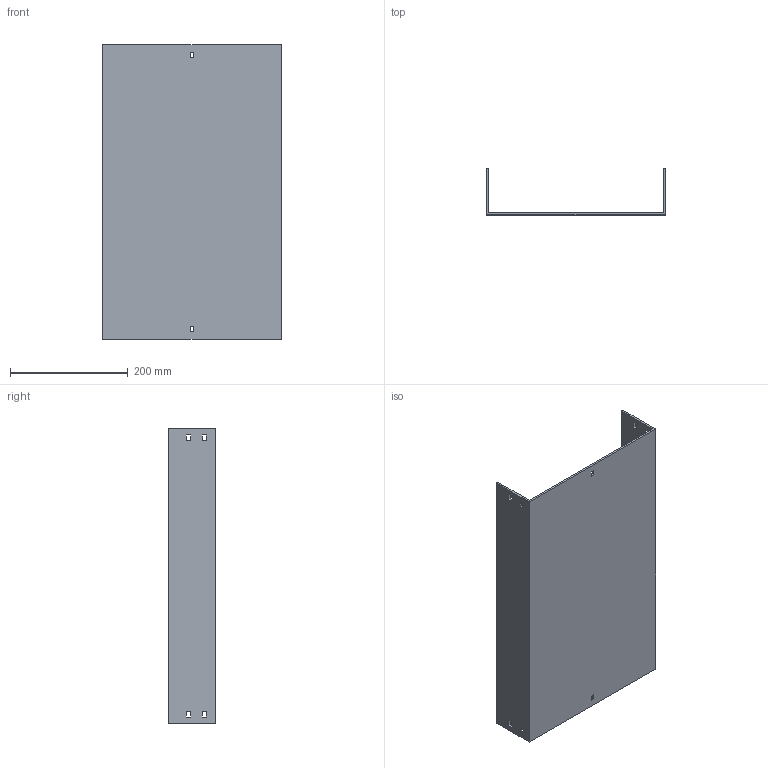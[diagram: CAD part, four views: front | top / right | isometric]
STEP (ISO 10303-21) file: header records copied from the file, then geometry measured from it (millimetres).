
FILE_DESCRIPTION (( 'STEP AP214' ), '1' );
FILE_NAME ('03F7C300.step', '2025-02-21T13:33:05', ( '' ), ( '' ), 'SwSTEP 2.0', 'SolidWorks 2023', '' );
FILE_SCHEMA (( 'AUTOMOTIVE_DESIGN' ));
Length unit declared in the file: millimetre
Products named in the file (1): 03F7C300
Bounding box: 304 x 79 x 500 mm (x, y, z)
Volume: 793880.5 mm3; surface area: 461500 mm2
Topology: 1 solids, 1 shells, 50 faces, 144 edges, 96 vertices
Faces by surface type: plane 50
Entity records: 1671 total; most frequent: CARTESIAN_POINT 291, ORIENTED_EDGE 288, DIRECTION 246, VECTOR 144, EDGE_CURVE 144, LINE 144, VERTEX_POINT 96, EDGE_LOOP 70
